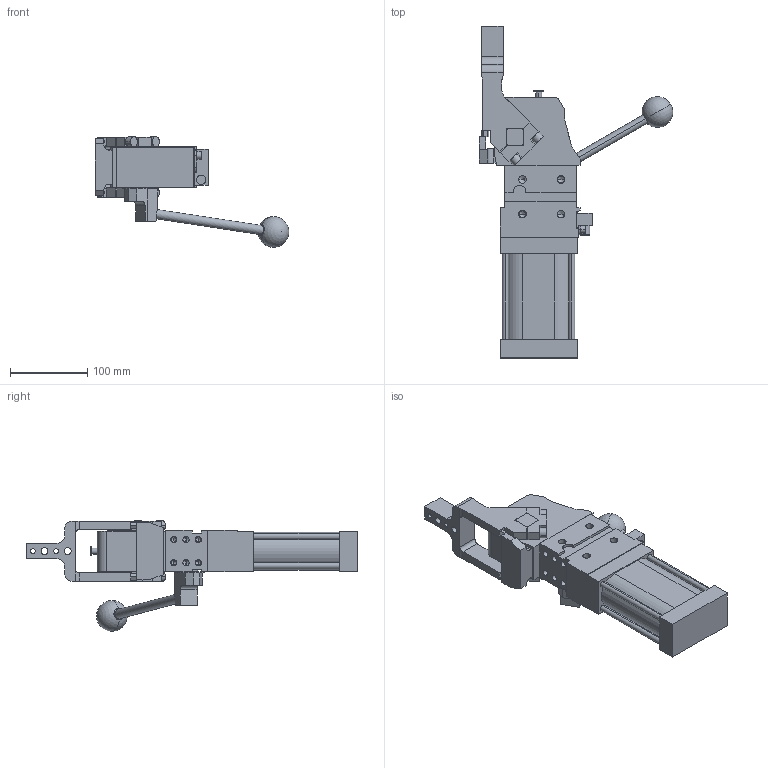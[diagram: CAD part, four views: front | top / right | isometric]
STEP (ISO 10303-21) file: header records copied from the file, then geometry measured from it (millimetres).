
FILE_DESCRIPTION (( 'STEP AP214' ), '1' );
FILE_NAME ('cplm63lbth1ci1g_107.STEP', '2023-01-26T14:47:59', ( '' ), ( '' ), 'SwSTEP 2.0', 'SolidWorks 2022', '' );
FILE_SCHEMA (( 'AUTOMOTIVE_DESIGN' ));
Length unit declared in the file: millimetre
Products named in the file (5): blocchetto_VEP_0; meccanica_cplm_63_tassello_esterno; cplm63lbth1ci1g_107; leva_h1c_cpl63t; comando_manuale_cplm_63
Assembly tree (4 placements, depth 2):
  cplm63lbth1ci1g_107
    meccanica_cplm_63_tassello_esterno
    blocchetto_VEP_0
    leva_h1c_cpl63t
    comando_manuale_cplm_63
Bounding box: 250.96 x 430.5 x 143.5 mm (x, y, z)
Volume: 1888892.2 mm3; surface area: 212371.8 mm2
Topology: 4 solids, 4 shells, 463 faces, 1223 edges, 761 vertices
Faces by surface type: plane 250, cylinder 161, cone 50, sphere 2
Entity records: 15566 total; most frequent: CARTESIAN_POINT 2482, DIRECTION 2464, ORIENTED_EDGE 2344, EDGE_CURVE 1172, AXIS2_PLACEMENT_3D 830, LINE 804, VECTOR 804, VERTEX_POINT 758
